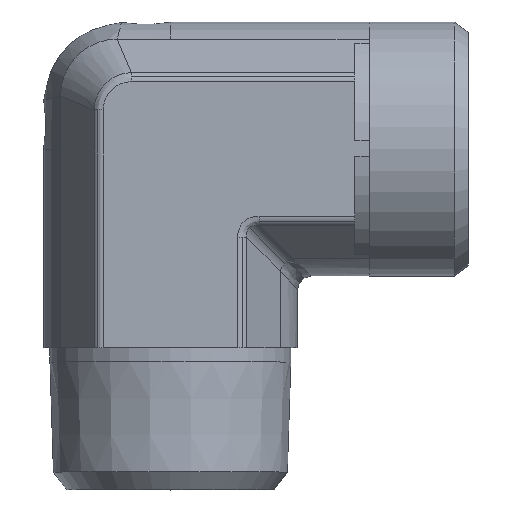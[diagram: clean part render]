
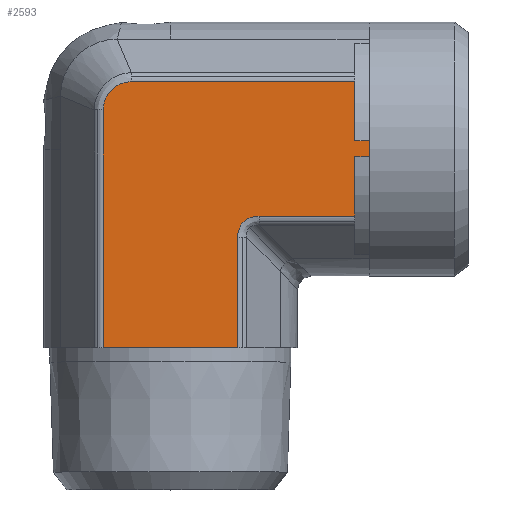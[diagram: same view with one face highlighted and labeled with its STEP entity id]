
A CAD part, top view. The second image highlights one B-rep face of the part: STEP entity #2593.
In plain terms, the highlighted planar face has unit normal (0, 0, 1) as drawn and (0, -1, 0) by its records, which use the part's own axes.
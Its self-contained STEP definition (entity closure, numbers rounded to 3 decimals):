
#361=CARTESIAN_POINT('',(7.985,-17.875,9.454));
#362=VERTEX_POINT('',#361);
#370=CARTESIAN_POINT('',(23.5,-17.875,9.454));
#371=VERTEX_POINT('',#370);
#372=CARTESIAN_POINT('',(7.985,-17.875,9.454));
#373=DIRECTION('',(1.0,0.0,0.0));
#374=VECTOR('',#373,15.515);
#375=LINE('',#372,#374);
#376=EDGE_CURVE('',#362,#371,#375,.T.);
#485=CARTESIAN_POINT('',(-13.954,-17.875,-5.501));
#486=VERTEX_POINT('',#485);
#494=CARTESIAN_POINT('',(-13.954,-17.875,26.0));
#495=VERTEX_POINT('',#494);
#496=CARTESIAN_POINT('',(-13.954,-17.875,-5.501));
#497=DIRECTION('',(0.0,0.0,1.0));
#498=VECTOR('',#497,31.501);
#499=LINE('',#496,#498);
#500=EDGE_CURVE('',#486,#495,#499,.T.);
#1998=CARTESIAN_POINT('',(4.954,-17.875,26.0));
#1999=VERTEX_POINT('',#1998);
#2000=CARTESIAN_POINT('',(-3.381,-17.875,26.0));
#2001=VERTEX_POINT('',#2000);
#2002=CARTESIAN_POINT('',(4.954,-17.875,26.0));
#2003=DIRECTION('',(-1.0,0.0,0.0));
#2004=VECTOR('',#2003,8.335);
#2005=LINE('',#2002,#2004);
#2006=EDGE_CURVE('',#1999,#2001,#2005,.T.);
#2057=CARTESIAN_POINT('',(-5.619,-17.875,26.0));
#2058=VERTEX_POINT('',#2057);
#2059=CARTESIAN_POINT('',(-5.619,-17.875,26.0));
#2060=DIRECTION('',(-1.0,0.0,0.0));
#2061=VECTOR('',#2060,8.335);
#2062=LINE('',#2059,#2061);
#2063=EDGE_CURVE('',#2058,#495,#2062,.T.);
#2162=CARTESIAN_POINT('',(-3.381,-17.875,28.0));
#2163=VERTEX_POINT('',#2162);
#2164=CARTESIAN_POINT('',(-3.381,-17.875,26.0));
#2165=DIRECTION('',(0.0,0.0,1.0));
#2166=VECTOR('',#2165,2.0);
#2167=LINE('',#2164,#2166);
#2168=EDGE_CURVE('',#2001,#2163,#2167,.T.);
#2203=CARTESIAN_POINT('',(-5.619,-17.875,28.0));
#2204=VERTEX_POINT('',#2203);
#2205=CARTESIAN_POINT('',(-5.619,-17.875,28.0));
#2206=DIRECTION('',(0.0,0.0,-1.0));
#2207=VECTOR('',#2206,2.0);
#2208=LINE('',#2205,#2207);
#2209=EDGE_CURVE('',#2204,#2058,#2208,.T.);
#2505=CARTESIAN_POINT('',(-4.5,-17.875,28.0));
#2506=VERTEX_POINT('',#2505);
#2507=CARTESIAN_POINT('',(-4.5,-17.875,28.0));
#2508=DIRECTION('',(-1.0,0.0,0.0));
#2509=VECTOR('',#2508,1.119);
#2510=LINE('',#2507,#2509);
#2511=EDGE_CURVE('',#2506,#2204,#2510,.T.);
#2529=CARTESIAN_POINT('',(-4.5,-17.875,-3.175));
#2530=DIRECTION('',(0.0,-1.0,0.0));
#2531=DIRECTION('',(0.0,0.0,-1.0));
#2532=AXIS2_PLACEMENT_3D('',#2529,#2530,#2531);
#2533=PLANE('',#2532);
#2534=ORIENTED_EDGE('',*,*,#2209,.T.);
#2535=ORIENTED_EDGE('',*,*,#2063,.T.);
#2536=ORIENTED_EDGE('',*,*,#500,.F.);
#2537=CARTESIAN_POINT('',(-10.001,-17.875,-9.454));
#2538=VERTEX_POINT('',#2537);
#2539=CARTESIAN_POINT('',(-13.954,-17.875,-5.501));
#2540=CARTESIAN_POINT('',(-13.954,-17.875,-5.759));
#2541=CARTESIAN_POINT('',(-13.928,-17.875,-6.018));
#2542=CARTESIAN_POINT('',(-13.795,-17.875,-6.68));
#2543=CARTESIAN_POINT('',(-13.65,-17.875,-7.07));
#2544=CARTESIAN_POINT('',(-13.121,-17.875,-8.011));
#2545=CARTESIAN_POINT('',(-12.65,-17.875,-8.503));
#2546=CARTESIAN_POINT('',(-11.461,-17.875,-9.245));
#2547=CARTESIAN_POINT('',(-10.732,-17.875,-9.454));
#2548=CARTESIAN_POINT('',(-10.001,-17.875,-9.454));
#2549=B_SPLINE_CURVE_WITH_KNOTS('',3,(#2539,#2540,#2541,#2542,#2543,#2544,#2545,#2546,#2547,#2548),.UNSPECIFIED.,.F.,.U.,(4,2,2,2,4),(-6.173,-5.402,-4.167,-2.191,0.0),.UNSPECIFIED.);
#2550=EDGE_CURVE('',#2538,#486,#2549,.F.);
#2551=ORIENTED_EDGE('',*,*,#2550,.F.);
#2552=CARTESIAN_POINT('',(23.5,-17.875,-9.454));
#2553=VERTEX_POINT('',#2552);
#2554=CARTESIAN_POINT('',(23.5,-17.875,-9.454));
#2555=DIRECTION('',(-1.0,0.0,0.0));
#2556=VECTOR('',#2555,33.501);
#2557=LINE('',#2554,#2556);
#2558=EDGE_CURVE('',#2553,#2538,#2557,.T.);
#2559=ORIENTED_EDGE('',*,*,#2558,.F.);
#2560=CARTESIAN_POINT('',(23.5,-17.875,-9.454));
#2561=DIRECTION('',(0.0,0.0,1.0));
#2562=VECTOR('',#2561,18.908);
#2563=LINE('',#2560,#2562);
#2564=EDGE_CURVE('',#2553,#371,#2563,.T.);
#2565=ORIENTED_EDGE('',*,*,#2564,.T.);
#2566=ORIENTED_EDGE('',*,*,#376,.F.);
#2567=CARTESIAN_POINT('',(4.954,-17.875,12.485));
#2568=VERTEX_POINT('',#2567);
#2569=CARTESIAN_POINT('',(8.996,-17.875,13.496));
#2570=DIRECTION('',(0.,-1.,0.));
#2571=DIRECTION('',(-0.707,0.,-0.707));
#2572=AXIS2_PLACEMENT_3D('',#2569,#2570,#2571);
#2573=ELLIPSE('',#2572,4.518,3.5);
#2574=EDGE_CURVE('',#2568,#362,#2573,.T.);
#2575=ORIENTED_EDGE('',*,*,#2574,.F.);
#2576=CARTESIAN_POINT('',(4.954,-17.875,26.0));
#2577=DIRECTION('',(0.0,0.0,-1.0));
#2578=VECTOR('',#2577,13.515);
#2579=LINE('',#2576,#2578);
#2580=EDGE_CURVE('',#1999,#2568,#2579,.T.);
#2581=ORIENTED_EDGE('',*,*,#2580,.F.);
#2582=ORIENTED_EDGE('',*,*,#2006,.T.);
#2583=ORIENTED_EDGE('',*,*,#2168,.T.);
#2584=CARTESIAN_POINT('',(-3.381,-17.875,28.0));
#2585=DIRECTION('',(-1.0,0.0,0.0));
#2586=VECTOR('',#2585,1.119);
#2587=LINE('',#2584,#2586);
#2588=EDGE_CURVE('',#2163,#2506,#2587,.T.);
#2589=ORIENTED_EDGE('',*,*,#2588,.T.);
#2590=ORIENTED_EDGE('',*,*,#2511,.T.);
#2591=EDGE_LOOP('',(#2534,#2535,#2536,#2551,#2559,#2565,#2566,#2575,#2581,#2582,#2583,#2589,#2590));
#2592=FACE_OUTER_BOUND('',#2591,.T.);
#2593=ADVANCED_FACE('',(#2592),#2533,.T.);
